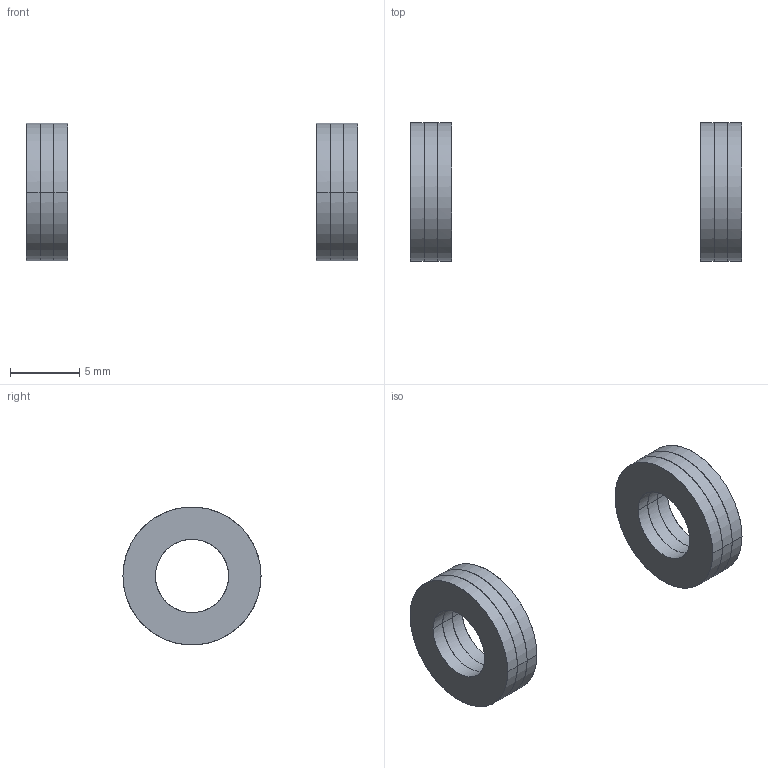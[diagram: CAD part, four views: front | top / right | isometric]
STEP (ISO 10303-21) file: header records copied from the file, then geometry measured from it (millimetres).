
FILE_DESCRIPTION(/* description */ (''),/* implementation_level */ '2;1');
FILE_NAME(/* name */ '6.y-drive#6.14#PWF5',/* time_stamp */ '2014-12-01T20:17:08+01:00',/* author */ (''),/* organization */ (''),/* preprocessor_version */ 'ST-DEVELOPER v14',/* originating_system */ '',/* authorisation */ '');
FILE_SCHEMA (('AUTOMOTIVE_DESIGN'));
Length unit declared in the file: millimetre
Products named in the file (2): Document; washer DIN125-like, form A, M5
Assembly tree (6 placements, depth 2):
  Document
    washer DIN125-like, form A, M5  x6
Bounding box: 24 x 10 x 9.98 mm (x, y, z)
Surface area: 967.6 mm2 (no closed solid volume)
Topology: 0 solids, 36 shells, 36 faces, 120 edges, 120 vertices
Faces by surface type: bspline 24, plane 12
Entity records: 583 total; most frequent: CARTESIAN_POINT 263, B_SPLINE_CURVE_WITH_KNOTS 24, ORIENTED_EDGE 20, PCURVE 20, DEFINITIONAL_REPRESENTATION 20, SURFACE_CURVE 20, EDGE_CURVE 20, VERTEX_POINT 20
